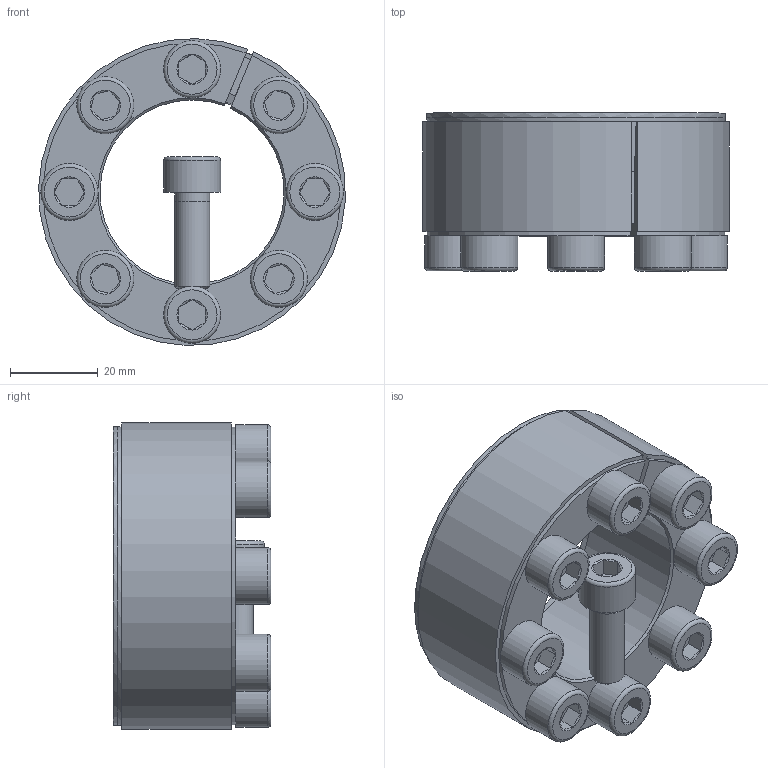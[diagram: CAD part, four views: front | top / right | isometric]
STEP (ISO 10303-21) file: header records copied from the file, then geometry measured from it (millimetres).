
FILE_DESCRIPTION( ( 'Unknown' ), '1' );
FILE_NAME( 'C:/Dokumente und Einstellungen/Sven/Desktop/homepage/cad - homepage/KBS52/KBS 52 - 42 x 70.stp', 'Unknown', ( 'Unknown' ), ( 'Unknown' ), 'XStep 1.0', 'Unknown', ' ' );
FILE_SCHEMA( ( 'automotive_design' ) );
Length unit declared in the file: millimetre
Products named in the file (3): Assem1; KBS 52 - 42 x 70; ISO EN DIN 4762 M8x22
Bounding box: 69.92 x 36 x 69.95 mm (x, y, z)
Volume: 131570.3 mm3; surface area: 50695.5 mm2
Topology: 11 solids, 11 shells, 281 faces, 553 edges, 328 vertices
Faces by surface type: plane 134, cone 69, cylinder 60, torus 18
Full cylindrical faces by diameter (mm): 7 x9, 8 x34, 13 x9, 68.175 x2
Entity records: 1717 total; most frequent: CARTESIAN_POINT 283, DIRECTION 263, ORIENTED_EDGE 196, AXIS2_PLACEMENT_3D 110, EDGE_CURVE 98, EDGE_LOOP 92, VERTEX_POINT 70, FACE_OUTER_BOUND 68
